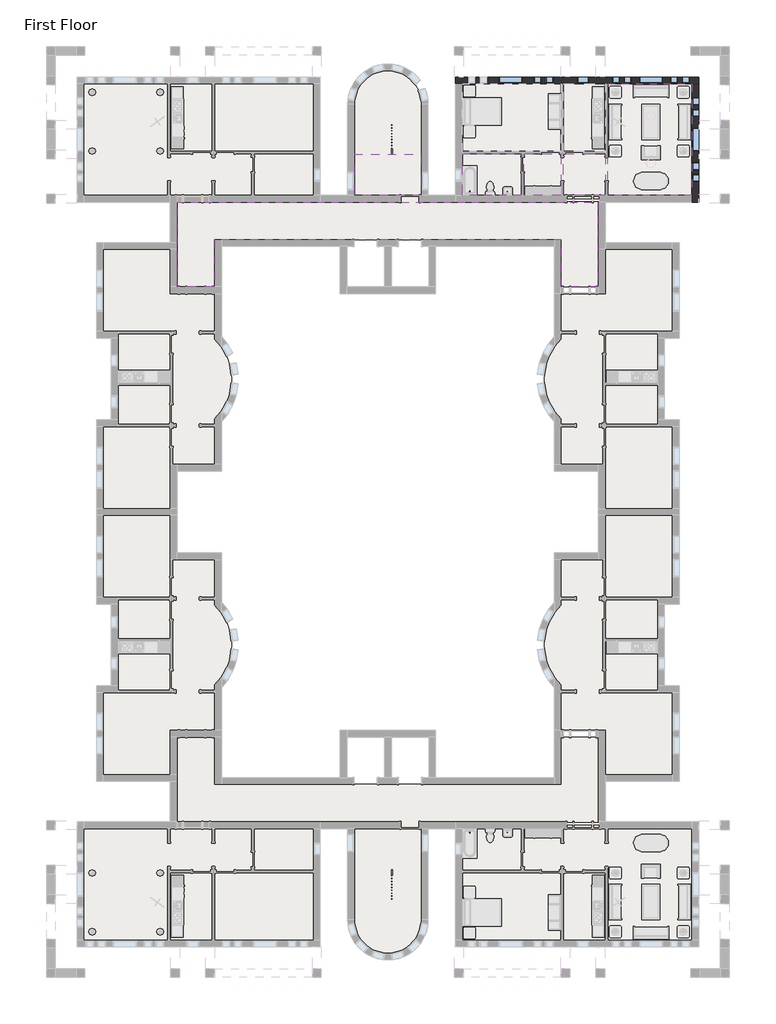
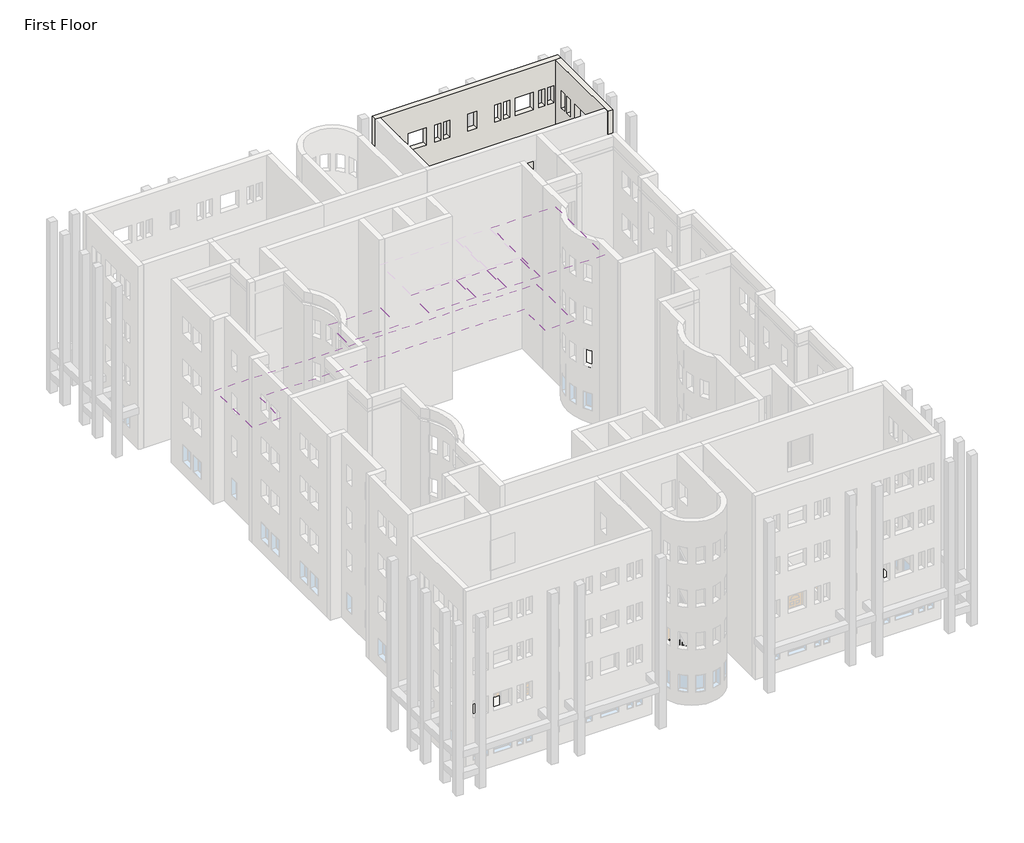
# One storey, part 18 of 23: 14 windows, 10 slabs, 6 coverings, 2 walls.
"""IFC4 building model written with IfcOpenShell, lengths in millimetres."""

from ifc_helpers import new_model, si_unit, point, frame, frame_2d, origin, place, context, project, spatial, polyline, circle_curve, trimmed, segment, composite_curve, outline, extrude, faceted_brep, transform, mapped, element, save
from components import window_da97879f, window_d61ef850, window_60baf983, window_6eb97611

model = new_model("IFC4")

# Units and contexts
model_context = context("Model", 3, world=origin())
ifc_project = project(units=[si_unit("LENGTHUNIT", "METRE", prefix="MILLI")], contexts=[model_context])

# Site, building, storey
site = spatial("IfcSite", under=ifc_project)
building = spatial("IfcBuilding", under=site)
storey = spatial("IfcBuildingStorey", under=building, Name="First Floor", Elevation=0.0)

# Coverings
placement = place(None, origin())
element("IfcCovering", 1, ObjectType="GWB on Mtl. Stud", at=placement, inside=storey, context=model_context, shape_type="SweptSolid", body=[
    extrude(outline(polyline([(-3709.9589563, 4526.4441867), (-3709.9589563, 10270.0191867), (622.3285437, 10270.0191867), (622.3285437, 4526.4441867), (-3709.9589563, 4526.4441867)])), frame((0.0, 0.0, 2590.8), z_axis=(0.0, 0.0, 1.0), x_axis=(1.0, 0.0, 0.0)), (0.0, 0.0, 1.0), 107.95),
])
element("IfcCovering", 2, ObjectType="GWB on Mtl. Stud", at=placement, inside=storey, context=model_context, shape_type="SweptSolid", body=[
    extrude(outline(polyline([(-3836.9589563, 4526.4441867), (-5995.9589563, 4526.4441867), (-5995.9589563, 6660.0441867), (-3836.9589563, 6660.0441867), (-3836.9589563, 4526.4441867)])), frame((0.0, 0.0, 2590.8), z_axis=(0.0, 0.0, 1.0), x_axis=(1.0, 0.0, 0.0)), (0.0, 0.0, 1.0), 107.95),
])
element("IfcCovering", 3, ObjectType="GWB on Mtl. Stud", at=placement, inside=storey, context=model_context, shape_type="SweptSolid", body=[
    extrude(outline(polyline([(-6122.9589563, 4526.4441867), (-8042.2464563, 4526.4441867), (-8042.2464563, 6660.0441867), (-6122.9589563, 6660.0441867), (-6122.9589563, 4526.4441867)])), frame((0.0, 0.0, 2590.8), z_axis=(0.0, 0.0, 1.0), x_axis=(1.0, 0.0, 0.0)), (0.0, 0.0, 1.0), 107.95),
])
element("IfcCovering", 4, ObjectType="GWB on Mtl. Stud", at=placement, inside=storey, context=model_context, shape_type="SweptSolid", body=[
    extrude(outline(polyline([(-8169.2464563, 6660.0441867), (-8169.2464563, 4526.4441867), (-11217.2464563, 4526.4441867), (-11217.2464563, 6660.0441867), (-8169.2464563, 6660.0441867)])), frame((0.0, 0.0, 2590.8), z_axis=(0.0, 0.0, 1.0), x_axis=(1.0, 0.0, 0.0)), (0.0, 0.0, 1.0), 107.95),
])
element("IfcCovering", 5, ObjectType="GWB on Mtl. Stud", at=placement, inside=storey, context=model_context, shape_type="SweptSolid", body=[
    extrude(outline(polyline([(-13333.3839563, 4526.4441867), (-16790.9589563, 4526.4441867), (-16790.9589563, 6636.2316867), (-13333.3839563, 6636.2316867), (-13333.3839563, 4526.4441867)])), frame((0.0, 0.0, 2438.4), z_axis=(0.0, 0.0, 1.0), x_axis=(1.0, 0.0, 0.0)), (0.0, 0.0, 1.0), 107.95),
])
element("IfcCovering", 6, ObjectType="GWB on Mtl. Stud", at=placement, inside=storey, context=model_context, shape_type="SweptSolid", body=[
    extrude(outline(polyline([(-6122.9589563, -197.9558133), (-6122.9589563, 2240.4441867), (-24001.3839563, 2240.4441867), (-24001.3839563, -197.9558133), (-25934.9589563, -197.9558133), (-25934.9589563, 4174.0191867), (-4189.3839563, 4174.0191867), (-4189.3839563, -197.9558133), (-6122.9589563, -197.9558133)])), frame((0.0, 0.0, 2438.4), z_axis=(0.0, 0.0, 1.0), x_axis=(1.0, 0.0, 0.0)), (0.0, 0.0, 1.0), 107.95),
])

# Slabs
element("IfcSlab", 7, ObjectType="LW Concrete on Metal Deck", at=placement, inside=storey, context=model_context, shape_type="SweptSolid", body=[
    extrude(outline(polyline([(787.4285437, 10435.1191867), (787.4285437, 4361.3441867), (-11382.3464563, 4361.3441867), (-11382.3464563, 10435.1191867), (787.4285437, 10435.1191867)])), frame((0.0, 0.0, -104.775), z_axis=(0.0, 0.0, 1.0), x_axis=(1.0, 0.0, 0.0)), (0.0, 0.0, 1.0), 104.775),
])
element("IfcSlab", 8, ObjectType="LW Concrete on Metal Deck", at=placement, inside=storey, context=model_context, shape_type="SweptSolid", body=[
    extrude(outline(composite_curve([segment(polyline([(-13320.6839563, 9227.0316867), (-13320.6839563, 4186.7191867), (-4189.3839563, 4186.7191867), (-4189.3839563, -197.9558133), (-6135.6589563, -197.9558133), (-6135.6589563, 2227.7441867), (-23988.6839563, 2227.7441867), (-23988.6839563, -197.9558133), (-25934.9589563, -197.9558133), (-25934.9589563, 4186.7191867), (-16803.6589563, 4186.7191867), (-16803.6589563, 9227.0316867)]), True, "CONTINUOUS"), segment(trimmed(circle_curve(frame_2d((-15062.1714563, 9227.0316867)), 1741.4875), [point((-16803.6589563, 9227.0316867))], [point((-13320.6839563, 9227.0316867))], False, "CARTESIAN"), True, "CONTINUOUS")], self_intersect=False)), frame((0.0, 0.0, -104.775), z_axis=(0.0, 0.0, 1.0), x_axis=(1.0, 0.0, 0.0)), (0.0, 0.0, 1.0), 104.775),
])
element("IfcSlab", 9, ObjectType="LW Concrete on Metal Deck", at=placement, inside=storey, context=model_context, shape_type="SweptSolid", body=[
    extrude(outline(composite_curve([segment(polyline([(-366.6839563, -7395.6808133), (-366.6839563, -11640.6558133), (-3849.6589563, -11640.6558133), (-3849.6589563, -9354.6558133), (-6135.6589563, -9354.6558133), (-6135.6589563, -6994.1453152)]), True, "CONTINUOUS"), segment(trimmed(circle_curve(frame_2d((-4122.4640713, -4946.1683133)), 2871.7875), [point((-6135.6589563, -6994.1453152))], [point((-6135.6589563, -2898.1913115))], False, "CARTESIAN"), True, "CONTINUOUS"), segment(polyline([(-6135.6589563, -2898.1913115), (-6135.6589563, -537.6808133), (-3849.6589563, -537.6808133), (-3849.6589563, 1748.3191867), (-366.6839563, 1748.3191867), (-366.6839563, -2496.6558133), (-1128.6839563, -2496.6558133), (-1128.6839563, -7395.6808133), (-366.6839563, -7395.6808133)]), True, "CONTINUOUS")], self_intersect=False)), frame((0.0, 0.0, -104.775), z_axis=(0.0, 0.0, 1.0), x_axis=(1.0, 0.0, 0.0)), (0.0, 0.0, 1.0), 104.775),
])
element("IfcSlab", 10, ObjectType="LW Concrete on Metal Deck", at=placement, inside=storey, context=model_context, shape_type="SweptSolid", body=[
    extrude(outline(polyline([(-30911.7714563, 10435.1191867), (-18741.9964563, 10435.1191867), (-18741.9964563, 4361.3441867), (-30911.7714563, 4361.3441867), (-30911.7714563, 10435.1191867)])), frame((0.0, 0.0, -104.775), z_axis=(0.0, 0.0, 1.0), x_axis=(1.0, 0.0, 0.0)), (0.0, 0.0, 1.0), 104.775),
])
element("IfcSlab", 11, ObjectType="LW Concrete on Metal Deck", at=placement, inside=storey, context=model_context, shape_type="SweptSolid", body=[
    extrude(outline(composite_curve([segment(polyline([(-29757.6589563, -7395.6808133), (-28995.6589563, -7395.6808133), (-28995.6589563, -2496.6558133), (-29757.6589563, -2496.6558133), (-29757.6589563, 1748.3191867), (-26274.6839563, 1748.3191867), (-26274.6839563, -537.6808133), (-23988.6839563, -537.6808133), (-23988.6839563, -2898.1913115)]), True, "CONTINUOUS"), segment(trimmed(circle_curve(frame_2d((-26001.8788413, -4946.1683133)), 2871.7875), [point((-23988.6839563, -2898.1913115))], [point((-23988.6839563, -6994.1453152))], False, "CARTESIAN"), True, "CONTINUOUS"), segment(polyline([(-23988.6839563, -6994.1453152), (-23988.6839563, -9354.6558133), (-26274.6839563, -9354.6558133), (-26274.6839563, -11640.6558133), (-29757.6589563, -11640.6558133), (-29757.6589563, -7395.6808133)]), True, "CONTINUOUS")], self_intersect=False)), frame((0.0, 0.0, -104.775), z_axis=(0.0, 0.0, 1.0), x_axis=(1.0, 0.0, 0.0)), (0.0, 0.0, 1.0), 104.775),
])
element("IfcSlab", 12, ObjectType="LW Concrete on Metal Deck", at=placement, inside=storey, context=model_context, shape_type="SweptSolid", body=[
    extrude(outline(polyline([(787.4285437, -34043.4558133), (-11382.3464563, -34043.4558133), (-11382.3464563, -27969.6808133), (787.4285437, -27969.6808133), (787.4285437, -34043.4558133)])), frame((0.0, 0.0, -104.775), z_axis=(0.0, 0.0, 1.0), x_axis=(1.0, 0.0, 0.0)), (0.0, 0.0, 1.0), 104.775),
])
element("IfcSlab", 13, ObjectType="LW Concrete on Metal Deck", at=placement, inside=storey, context=model_context, shape_type="SweptSolid", body=[
    extrude(outline(composite_curve([segment(trimmed(circle_curve(frame_2d((-15062.1714563, -32835.3683133)), 1741.4875), [point((-13320.6839563, -32835.3683133))], [point((-16803.6589563, -32835.3683133))], False, "CARTESIAN"), True, "CONTINUOUS"), segment(polyline([(-16803.6589563, -32835.3683133), (-16803.6589563, -27795.0558133), (-25934.9589563, -27795.0558133), (-25934.9589563, -23410.3808133), (-23988.6839563, -23410.3808133), (-23988.6839563, -25836.0808133), (-6135.6589563, -25836.0808133), (-6135.6589563, -23410.3808133), (-4189.3839563, -23410.3808133), (-4189.3839563, -27795.0558133), (-13320.6839563, -27795.0558133), (-13320.6839563, -32835.3683133)]), True, "CONTINUOUS")], self_intersect=False)), frame((0.0, 0.0, -104.775), z_axis=(0.0, 0.0, 1.0), x_axis=(1.0, 0.0, 0.0)), (0.0, 0.0, 1.0), 104.775),
])
element("IfcSlab", 14, ObjectType="LW Concrete on Metal Deck", at=placement, inside=storey, context=model_context, shape_type="SweptSolid", body=[
    extrude(outline(composite_curve([segment(polyline([(-366.6839563, -16212.6558133), (-1128.6839563, -16212.6558133), (-1128.6839563, -21111.6808133), (-366.6839563, -21111.6808133), (-366.6839563, -25356.6558133), (-3849.6589563, -25356.6558133), (-3849.6589563, -23070.6558133), (-6135.6589563, -23070.6558133), (-6135.6589563, -20710.1453152)]), True, "CONTINUOUS"), segment(trimmed(circle_curve(frame_2d((-4122.4640713, -18662.1683133)), 2871.7875), [point((-6135.6589563, -20710.1453152))], [point((-6135.6589563, -16614.1913115))], False, "CARTESIAN"), True, "CONTINUOUS"), segment(polyline([(-6135.6589563, -16614.1913115), (-6135.6589563, -14253.6808133), (-3849.6589563, -14253.6808133), (-3849.6589563, -11967.6808133), (-366.6839563, -11967.6808133), (-366.6839563, -16212.6558133)]), True, "CONTINUOUS")], self_intersect=False)), frame((0.0, 0.0, -104.775), z_axis=(0.0, 0.0, 1.0), x_axis=(1.0, 0.0, 0.0)), (0.0, 0.0, 1.0), 104.775),
])
element("IfcSlab", 15, ObjectType="LW Concrete on Metal Deck", at=placement, inside=storey, context=model_context, shape_type="SweptSolid", body=[
    extrude(outline(polyline([(-30911.7714563, -34043.4558133), (-30911.7714563, -27969.6808133), (-18741.9964563, -27969.6808133), (-18741.9964563, -34043.4558133), (-30911.7714563, -34043.4558133)])), frame((0.0, 0.0, -104.775), z_axis=(0.0, 0.0, 1.0), x_axis=(1.0, 0.0, 0.0)), (0.0, 0.0, 1.0), 104.775),
])
element("IfcSlab", 16, ObjectType="LW Concrete on Metal Deck", at=placement, inside=storey, context=model_context, shape_type="SweptSolid", body=[
    extrude(outline(composite_curve([segment(polyline([(-29757.6589563, -16212.6558133), (-29757.6589563, -11967.6808133), (-26274.6839563, -11967.6808133), (-26274.6839563, -14253.6808133), (-23988.6839563, -14253.6808133), (-23988.6839563, -16614.1913115)]), True, "CONTINUOUS"), segment(trimmed(circle_curve(frame_2d((-26001.8788413, -18662.1683133)), 2871.7875), [point((-23988.6839563, -16614.1913115))], [point((-23988.6839563, -20710.1453152))], False, "CARTESIAN"), True, "CONTINUOUS"), segment(polyline([(-23988.6839563, -20710.1453152), (-23988.6839563, -23070.6558133), (-26274.6839563, -23070.6558133), (-26274.6839563, -25356.6558133), (-29757.6589563, -25356.6558133), (-29757.6589563, -21111.6808133), (-28995.6589563, -21111.6808133), (-28995.6589563, -16212.6558133), (-29757.6589563, -16212.6558133)]), True, "CONTINUOUS")], self_intersect=False)), frame((0.0, 0.0, -104.775), z_axis=(0.0, 0.0, 1.0), x_axis=(1.0, 0.0, 0.0)), (0.0, 0.0, 1.0), 104.775),
])

# Walls
element("IfcWall", 17, ObjectType="Exterior - Brick on Mtl. Stud", at=placement, inside=storey, context=model_context, shape_type="Brep", body=[
    faceted_brep([(-11569.6714563, 10270.0191867, 0.0), (-11382.3464563, 10270.0191867, 0.0), (-11217.2464563, 10270.0191867, 0.0), (-6122.9589563, 10270.0191867, 0.0), (-5995.9589563, 10270.0191867, 0.0), (-3836.9589563, 10270.0191867, 0.0), (-3709.9589563, 10270.0191867, 0.0), (622.3285437, 10270.0191867, 0.0), (787.4285437, 10270.0191867, 0.0), (974.7535437, 10270.0191867, 0.0), (974.7535437, 10270.0191867, 13106.4), (622.3285437, 10270.0191867, 13106.4), (-11217.2464563, 10270.0191867, 13106.4), (-11569.6714563, 10270.0191867, 13106.4), (-5297.4589563, 10270.0191867, 2133.6), (-4687.8589563, 10270.0191867, 2133.6), (-4687.8589563, 10270.0191867, 914.4), (-5297.4589563, 10270.0191867, 914.4), (-9336.0589563, 10270.0191867, 2133.6), (-8116.8589563, 10270.0191867, 2133.6), (-8116.8589563, 10270.0191867, 914.4), (-9336.0589563, 10270.0191867, 914.4), (-2097.0589563, 10270.0191867, 2133.6), (-877.8589563, 10270.0191867, 2133.6), (-877.8589563, 10270.0191867, 914.4), (-2097.0589563, 10270.0191867, 914.4), (-10936.2589563, 10270.0191867, 2133.6), (-10529.8589563, 10270.0191867, 2133.6), (-10529.8589563, 10270.0191867, 914.4), (-10936.2589563, 10270.0191867, 914.4), (-10326.6589563, 10270.0191867, 2133.6), (-9920.2589563, 10270.0191867, 2133.6), (-9920.2589563, 10270.0191867, 914.4), (-10326.6589563, 10270.0191867, 914.4), (-6516.6589563, 10270.0191867, 2133.6), (-6516.6589563, 10270.0191867, 914.4), (-6923.0589563, 10270.0191867, 914.4), (-6923.0589563, 10270.0191867, 2133.6), (-7126.2589563, 10270.0191867, 2133.6), (-7126.2589563, 10270.0191867, 914.4), (-7532.6589563, 10270.0191867, 914.4), (-7532.6589563, 10270.0191867, 2133.6), (-3494.0589563, 10270.0191867, 2133.6), (-3087.6589563, 10270.0191867, 2133.6), (-3087.6589563, 10270.0191867, 914.4), (-3494.0589563, 10270.0191867, 914.4), (-2884.4589563, 10270.0191867, 2133.6), (-2478.0589563, 10270.0191867, 2133.6), (-2478.0589563, 10270.0191867, 914.4), (-2884.4589563, 10270.0191867, 914.4), (519.1410437, 10270.0191867, 2133.6), (519.1410437, 10270.0191867, 914.4), (112.7410437, 10270.0191867, 914.4), (112.7410437, 10270.0191867, 2133.6), (-90.4589563, 10270.0191867, 2133.6), (-90.4589563, 10270.0191867, 914.4), (-496.8589563, 10270.0191867, 914.4), (-496.8589563, 10270.0191867, 2133.6), (-5297.4589563, 10270.0191867, 11277.6), (-4687.8589563, 10270.0191867, 11277.6), (-4687.8589563, 10270.0191867, 10058.4), (-5297.4589563, 10270.0191867, 10058.4), (-9336.0589563, 10270.0191867, 11277.6), (-8116.8589563, 10270.0191867, 11277.6), (-8116.8589563, 10270.0191867, 10058.4), (-9336.0589563, 10270.0191867, 10058.4), (-2097.0589563, 10270.0191867, 11277.6), (-877.8589563, 10270.0191867, 11277.6), (-877.8589563, 10270.0191867, 10058.4), (-2097.0589563, 10270.0191867, 10058.4), (-10936.2589563, 10270.0191867, 11277.6), (-10529.8589563, 10270.0191867, 11277.6), (-10529.8589563, 10270.0191867, 10058.4), (-10936.2589563, 10270.0191867, 10058.4), (-10326.6589563, 10270.0191867, 11277.6), (-9920.2589563, 10270.0191867, 11277.6), (-9920.2589563, 10270.0191867, 10058.4), (-10326.6589563, 10270.0191867, 10058.4), (-6516.6589563, 10270.0191867, 11277.6), (-6516.6589563, 10270.0191867, 10058.4), (-6923.0589563, 10270.0191867, 10058.4), (-6923.0589563, 10270.0191867, 11277.6), (-7126.2589563, 10270.0191867, 11277.6), (-7126.2589563, 10270.0191867, 10058.4), (-7532.6589563, 10270.0191867, 10058.4), (-7532.6589563, 10270.0191867, 11277.6), (-3494.0589563, 10270.0191867, 11277.6), (-3087.6589563, 10270.0191867, 11277.6), (-3087.6589563, 10270.0191867, 10058.4), (-3494.0589563, 10270.0191867, 10058.4), (-2884.4589563, 10270.0191867, 11277.6), (-2478.0589563, 10270.0191867, 11277.6), (-2478.0589563, 10270.0191867, 10058.4), (-2884.4589563, 10270.0191867, 10058.4), (519.1410437, 10270.0191867, 11277.6), (519.1410437, 10270.0191867, 10058.4), (112.7410437, 10270.0191867, 10058.4), (112.7410437, 10270.0191867, 11277.6), (-90.4589563, 10270.0191867, 11277.6), (-90.4589563, 10270.0191867, 10058.4), (-496.8589563, 10270.0191867, 10058.4), (-496.8589563, 10270.0191867, 11277.6), (-5297.4589563, 10270.0191867, 5181.6), (-4687.8589563, 10270.0191867, 5181.6), (-4687.8589563, 10270.0191867, 3962.4), (-5297.4589563, 10270.0191867, 3962.4), (-9336.0589563, 10270.0191867, 5181.6), (-8116.8589563, 10270.0191867, 5181.6), (-8116.8589563, 10270.0191867, 3962.4), (-9336.0589563, 10270.0191867, 3962.4), (-2097.0589563, 10270.0191867, 5181.6), (-877.8589563, 10270.0191867, 5181.6), (-877.8589563, 10270.0191867, 3962.4), (-2097.0589563, 10270.0191867, 3962.4), (-10936.2589563, 10270.0191867, 5181.6), (-10529.8589563, 10270.0191867, 5181.6), (-10529.8589563, 10270.0191867, 3962.4), (-10936.2589563, 10270.0191867, 3962.4), (-10326.6589563, 10270.0191867, 5181.6), (-9920.2589563, 10270.0191867, 5181.6), (-9920.2589563, 10270.0191867, 3962.4), (-10326.6589563, 10270.0191867, 3962.4), (-6516.6589563, 10270.0191867, 5181.6), (-6516.6589563, 10270.0191867, 3962.4), (-6923.0589563, 10270.0191867, 3962.4), (-6923.0589563, 10270.0191867, 5181.6), (-7126.2589563, 10270.0191867, 5181.6), (-7126.2589563, 10270.0191867, 3962.4), (-7532.6589563, 10270.0191867, 3962.4), (-7532.6589563, 10270.0191867, 5181.6), (-3494.0589563, 10270.0191867, 5181.6), (-3087.6589563, 10270.0191867, 5181.6), (-3087.6589563, 10270.0191867, 3962.4), (-3494.0589563, 10270.0191867, 3962.4), (-2884.4589563, 10270.0191867, 5181.6), (-2478.0589563, 10270.0191867, 5181.6), (-2478.0589563, 10270.0191867, 3962.4), (-2884.4589563, 10270.0191867, 3962.4), (519.1410437, 10270.0191867, 5181.6), (519.1410437, 10270.0191867, 3962.4), (112.7410437, 10270.0191867, 3962.4), (112.7410437, 10270.0191867, 5181.6), (-90.4589563, 10270.0191867, 5181.6), (-90.4589563, 10270.0191867, 3962.4), (-496.8589563, 10270.0191867, 3962.4), (-496.8589563, 10270.0191867, 5181.6), (-5297.4589563, 10270.0191867, 8229.6), (-4687.8589563, 10270.0191867, 8229.6), (-4687.8589563, 10270.0191867, 7010.4), (-5297.4589563, 10270.0191867, 7010.4), (-9336.0589563, 10270.0191867, 8229.6), (-8116.8589563, 10270.0191867, 8229.6), (-8116.8589563, 10270.0191867, 7010.4), (-9336.0589563, 10270.0191867, 7010.4), (-2097.0589563, 10270.0191867, 8229.6), (-877.8589563, 10270.0191867, 8229.6), (-877.8589563, 10270.0191867, 7010.4), (-2097.0589563, 10270.0191867, 7010.4), (-10936.2589563, 10270.0191867, 8229.6), (-10529.8589563, 10270.0191867, 8229.6), (-10529.8589563, 10270.0191867, 7010.4), (-10936.2589563, 10270.0191867, 7010.4), (-10326.6589563, 10270.0191867, 8229.6), (-9920.2589563, 10270.0191867, 8229.6), (-9920.2589563, 10270.0191867, 7010.4), (-10326.6589563, 10270.0191867, 7010.4), (-6516.6589563, 10270.0191867, 8229.6), (-6516.6589563, 10270.0191867, 7010.4), (-6923.0589563, 10270.0191867, 7010.4), (-6923.0589563, 10270.0191867, 8229.6), (-7126.2589563, 10270.0191867, 8229.6), (-7126.2589563, 10270.0191867, 7010.4), (-7532.6589563, 10270.0191867, 7010.4), (-7532.6589563, 10270.0191867, 8229.6), (-3494.0589563, 10270.0191867, 8229.6), (-3087.6589563, 10270.0191867, 8229.6), (-3087.6589563, 10270.0191867, 7010.4), (-3494.0589563, 10270.0191867, 7010.4), (-2884.4589563, 10270.0191867, 8229.6), (-2478.0589563, 10270.0191867, 8229.6), (-2478.0589563, 10270.0191867, 7010.4), (-2884.4589563, 10270.0191867, 7010.4), (519.1410437, 10270.0191867, 8229.6), (519.1410437, 10270.0191867, 7010.4), (112.7410437, 10270.0191867, 7010.4), (112.7410437, 10270.0191867, 8229.6), (-90.4589563, 10270.0191867, 8229.6), (-90.4589563, 10270.0191867, 7010.4), (-496.8589563, 10270.0191867, 7010.4), (-496.8589563, 10270.0191867, 8229.6), (-11569.6714563, 10622.4441867, 0.0), (-11569.6714563, 10622.4441867, 13106.4), (974.7535437, 10622.4441867, 13106.4), (974.7535437, 10622.4441867, 0.0), (787.4285437, 10622.4441867, 0.0), (-11382.3464563, 10622.4441867, 0.0), (-5297.4589563, 10622.4441867, 2133.6), (-5297.4589563, 10622.4441867, 914.4), (-4687.8589563, 10622.4441867, 914.4), (-4687.8589563, 10622.4441867, 2133.6), (-9336.0589563, 10622.4441867, 2133.6), (-9336.0589563, 10622.4441867, 914.4), (-8116.8589563, 10622.4441867, 914.4), (-8116.8589563, 10622.4441867, 2133.6), (-2097.0589563, 10622.4441867, 2133.6), (-2097.0589563, 10622.4441867, 914.4), (-877.8589563, 10622.4441867, 914.4), (-877.8589563, 10622.4441867, 2133.6), (-10936.2589563, 10622.4441867, 2133.6), (-10936.2589563, 10622.4441867, 914.4), (-10529.8589563, 10622.4441867, 914.4), (-10529.8589563, 10622.4441867, 2133.6), (-10326.6589563, 10622.4441867, 2133.6), (-10326.6589563, 10622.4441867, 914.4), (-9920.2589563, 10622.4441867, 914.4), (-9920.2589563, 10622.4441867, 2133.6), (-6516.6589563, 10622.4441867, 2133.6), (-6923.0589563, 10622.4441867, 2133.6), (-6923.0589563, 10622.4441867, 914.4), (-6516.6589563, 10622.4441867, 914.4), (-7126.2589563, 10622.4441867, 2133.6), (-7532.6589563, 10622.4441867, 2133.6), (-7532.6589563, 10622.4441867, 914.4), (-7126.2589563, 10622.4441867, 914.4), (-3494.0589563, 10622.4441867, 2133.6), (-3494.0589563, 10622.4441867, 914.4), (-3087.6589563, 10622.4441867, 914.4), (-3087.6589563, 10622.4441867, 2133.6), (-2884.4589563, 10622.4441867, 2133.6), (-2884.4589563, 10622.4441867, 914.4), (-2478.0589563, 10622.4441867, 914.4), (-2478.0589563, 10622.4441867, 2133.6), (519.1410437, 10622.4441867, 2133.6), (112.7410437, 10622.4441867, 2133.6), (112.7410437, 10622.4441867, 914.4), (519.1410437, 10622.4441867, 914.4), (-90.4589563, 10622.4441867, 2133.6), (-496.8589563, 10622.4441867, 2133.6), (-496.8589563, 10622.4441867, 914.4), (-90.4589563, 10622.4441867, 914.4), (-5297.4589563, 10622.4441867, 11277.6), (-5297.4589563, 10622.4441867, 10058.4), (-4687.8589563, 10622.4441867, 10058.4), (-4687.8589563, 10622.4441867, 11277.6), (-9336.0589563, 10622.4441867, 11277.6), (-9336.0589563, 10622.4441867, 10058.4), (-8116.8589563, 10622.4441867, 10058.4), (-8116.8589563, 10622.4441867, 11277.6), (-2097.0589563, 10622.4441867, 11277.6), (-2097.0589563, 10622.4441867, 10058.4), (-877.8589563, 10622.4441867, 10058.4), (-877.8589563, 10622.4441867, 11277.6), (-10936.2589563, 10622.4441867, 11277.6), (-10936.2589563, 10622.4441867, 10058.4), (-10529.8589563, 10622.4441867, 10058.4), (-10529.8589563, 10622.4441867, 11277.6), (-10326.6589563, 10622.4441867, 11277.6), (-10326.6589563, 10622.4441867, 10058.4), (-9920.2589563, 10622.4441867, 10058.4), (-9920.2589563, 10622.4441867, 11277.6), (-6516.6589563, 10622.4441867, 11277.6), (-6923.0589563, 10622.4441867, 11277.6), (-6923.0589563, 10622.4441867, 10058.4), (-6516.6589563, 10622.4441867, 10058.4), (-7126.2589563, 10622.4441867, 11277.6), (-7532.6589563, 10622.4441867, 11277.6), (-7532.6589563, 10622.4441867, 10058.4), (-7126.2589563, 10622.4441867, 10058.4), (-3494.0589563, 10622.4441867, 11277.6), (-3494.0589563, 10622.4441867, 10058.4), (-3087.6589563, 10622.4441867, 10058.4), (-3087.6589563, 10622.4441867, 11277.6), (-2884.4589563, 10622.4441867, 11277.6), (-2884.4589563, 10622.4441867, 10058.4), (-2478.0589563, 10622.4441867, 10058.4), (-2478.0589563, 10622.4441867, 11277.6), (519.1410437, 10622.4441867, 11277.6), (112.7410437, 10622.4441867, 11277.6), (112.7410437, 10622.4441867, 10058.4), (519.1410437, 10622.4441867, 10058.4), (-90.4589563, 10622.4441867, 11277.6), (-496.8589563, 10622.4441867, 11277.6), (-496.8589563, 10622.4441867, 10058.4), (-90.4589563, 10622.4441867, 10058.4), (-5297.4589563, 10622.4441867, 5181.6), (-5297.4589563, 10622.4441867, 3962.4), (-4687.8589563, 10622.4441867, 3962.4), (-4687.8589563, 10622.4441867, 5181.6), (-9336.0589563, 10622.4441867, 5181.6), (-9336.0589563, 10622.4441867, 3962.4), (-8116.8589563, 10622.4441867, 3962.4), (-8116.8589563, 10622.4441867, 5181.6), (-2097.0589563, 10622.4441867, 5181.6), (-2097.0589563, 10622.4441867, 3962.4), (-877.8589563, 10622.4441867, 3962.4), (-877.8589563, 10622.4441867, 5181.6), (-10936.2589563, 10622.4441867, 5181.6), (-10936.2589563, 10622.4441867, 3962.4), (-10529.8589563, 10622.4441867, 3962.4), (-10529.8589563, 10622.4441867, 5181.6), (-10326.6589563, 10622.4441867, 5181.6), (-10326.6589563, 10622.4441867, 3962.4), (-9920.2589563, 10622.4441867, 3962.4), (-9920.2589563, 10622.4441867, 5181.6), (-6516.6589563, 10622.4441867, 5181.6), (-6923.0589563, 10622.4441867, 5181.6), (-6923.0589563, 10622.4441867, 3962.4), (-6516.6589563, 10622.4441867, 3962.4), (-7126.2589563, 10622.4441867, 5181.6), (-7532.6589563, 10622.4441867, 5181.6), (-7532.6589563, 10622.4441867, 3962.4), (-7126.2589563, 10622.4441867, 3962.4), (-3494.0589563, 10622.4441867, 5181.6), (-3494.0589563, 10622.4441867, 3962.4), (-3087.6589563, 10622.4441867, 3962.4), (-3087.6589563, 10622.4441867, 5181.6), (-2884.4589563, 10622.4441867, 5181.6), (-2884.4589563, 10622.4441867, 3962.4), (-2478.0589563, 10622.4441867, 3962.4), (-2478.0589563, 10622.4441867, 5181.6), (519.1410437, 10622.4441867, 5181.6), (112.7410437, 10622.4441867, 5181.6), (112.7410437, 10622.4441867, 3962.4), (519.1410437, 10622.4441867, 3962.4), (-90.4589563, 10622.4441867, 5181.6), (-496.8589563, 10622.4441867, 5181.6), (-496.8589563, 10622.4441867, 3962.4), (-90.4589563, 10622.4441867, 3962.4), (-5297.4589563, 10622.4441867, 8229.6), (-5297.4589563, 10622.4441867, 7010.4), (-4687.8589563, 10622.4441867, 7010.4), (-4687.8589563, 10622.4441867, 8229.6), (-9336.0589563, 10622.4441867, 8229.6), (-9336.0589563, 10622.4441867, 7010.4), (-8116.8589563, 10622.4441867, 7010.4), (-8116.8589563, 10622.4441867, 8229.6), (-2097.0589563, 10622.4441867, 8229.6), (-2097.0589563, 10622.4441867, 7010.4), (-877.8589563, 10622.4441867, 7010.4), (-877.8589563, 10622.4441867, 8229.6), (-10936.2589563, 10622.4441867, 8229.6), (-10936.2589563, 10622.4441867, 7010.4), (-10529.8589563, 10622.4441867, 7010.4), (-10529.8589563, 10622.4441867, 8229.6), (-10326.6589563, 10622.4441867, 8229.6), (-10326.6589563, 10622.4441867, 7010.4), (-9920.2589563, 10622.4441867, 7010.4), (-9920.2589563, 10622.4441867, 8229.6), (-6516.6589563, 10622.4441867, 8229.6), (-6923.0589563, 10622.4441867, 8229.6), (-6923.0589563, 10622.4441867, 7010.4), (-6516.6589563, 10622.4441867, 7010.4), (-7126.2589563, 10622.4441867, 8229.6), (-7532.6589563, 10622.4441867, 8229.6), (-7532.6589563, 10622.4441867, 7010.4), (-7126.2589563, 10622.4441867, 7010.4), (-3494.0589563, 10622.4441867, 8229.6), (-3494.0589563, 10622.4441867, 7010.4), (-3087.6589563, 10622.4441867, 7010.4), (-3087.6589563, 10622.4441867, 8229.6), (-2884.4589563, 10622.4441867, 8229.6), (-2884.4589563, 10622.4441867, 7010.4), (-2478.0589563, 10622.4441867, 7010.4), (-2478.0589563, 10622.4441867, 8229.6), (519.1410437, 10622.4441867, 8229.6), (112.7410437, 10622.4441867, 8229.6), (112.7410437, 10622.4441867, 7010.4), (519.1410437, 10622.4441867, 7010.4), (-90.4589563, 10622.4441867, 8229.6), (-496.8589563, 10622.4441867, 8229.6), (-496.8589563, 10622.4441867, 7010.4), (-90.4589563, 10622.4441867, 7010.4), (974.7535437, 10435.1191867, 0.0), (-11569.6714563, 10435.1191867, 0.0), (-11382.3464563, 10435.1191867, 0.0), (787.4285437, 10435.1191867, 0.0)], [[[0, 1, 2, 3, 4, 5, 6, 7, 8, 9, 10, 11, 12, 13], [14, 15, 16, 17], [18, 19, 20, 21], [22, 23, 24, 25], [26, 27, 28, 29], [30, 31, 32, 33], [34, 35, 36, 37], [38, 39, 40, 41], [42, 43, 44, 45], [46, 47, 48, 49], [50, 51, 52, 53], [54, 55, 56, 57], [58, 59, 60, 61], [62, 63, 64, 65], [66, 67, 68, 69], [70, 71, 72, 73], [74, 75, 76, 77], [78, 79, 80, 81], [82, 83, 84, 85], [86, 87, 88, 89], [90, 91, 92, 93], [94, 95, 96, 97], [98, 99, 100, 101], [102, 103, 104, 105], [106, 107, 108, 109], [110, 111, 112, 113], [114, 115, 116, 117], [118, 119, 120, 121], [122, 123, 124, 125], [126, 127, 128, 129], [130, 131, 132, 133], [134, 135, 136, 137], [138, 139, 140, 141], [142, 143, 144, 145], [146, 147, 148, 149], [150, 151, 152, 153], [154, 155, 156, 157], [158, 159, 160, 161], [162, 163, 164, 165], [166, 167, 168, 169], [170, 171, 172, 173], [174, 175, 176, 177], [178, 179, 180, 181], [182, 183, 184, 185], [186, 187, 188, 189]], [[190, 191, 192, 193, 194, 195], [196, 197, 198, 199], [200, 201, 202, 203], [204, 205, 206, 207], [208, 209, 210, 211], [212, 213, 214, 215], [216, 217, 218, 219], [220, 221, 222, 223], [224, 225, 226, 227], [228, 229, 230, 231], [232, 233, 234, 235], [236, 237, 238, 239], [240, 241, 242, 243], [244, 245, 246, 247], [248, 249, 250, 251], [252, 253, 254, 255], [256, 257, 258, 259], [260, 261, 262, 263], [264, 265, 266, 267], [268, 269, 270, 271], [272, 273, 274, 275], [276, 277, 278, 279], [280, 281, 282, 283], [284, 285, 286, 287], [288, 289, 290, 291], [292, 293, 294, 295], [296, 297, 298, 299], [300, 301, 302, 303], [304, 305, 306, 307], [308, 309, 310, 311], [312, 313, 314, 315], [316, 317, 318, 319], [320, 321, 322, 323], [324, 325, 326, 327], [328, 329, 330, 331], [332, 333, 334, 335], [336, 337, 338, 339], [340, 341, 342, 343], [344, 345, 346, 347], [348, 349, 350, 351], [352, 353, 354, 355], [356, 357, 358, 359], [360, 361, 362, 363], [364, 365, 366, 367], [368, 369, 370, 371]], [[13, 12, 11, 10, 192, 191]], [[10, 9, 372, 193, 192]], [[0, 13, 191, 190, 373]], [[1, 0, 373, 374]], [[373, 190, 195, 374]], [[9, 8, 375, 372]], [[195, 194, 375, 374]], [[194, 193, 372, 375]], [[8, 7, 6, 5, 4, 3, 2, 1, 374, 375]], [[197, 196, 14, 17]], [[198, 197, 17, 16]], [[199, 198, 16, 15]], [[196, 199, 15, 14]], [[201, 200, 18, 21]], [[202, 201, 21, 20]], [[203, 202, 20, 19]], [[200, 203, 19, 18]], [[205, 204, 22, 25]], [[206, 205, 25, 24]], [[207, 206, 24, 23]], [[204, 207, 23, 22]], [[209, 208, 26, 29]], [[210, 209, 29, 28]], [[211, 210, 28, 27]], [[208, 211, 27, 26]], [[213, 212, 30, 33]], [[214, 213, 33, 32]], [[215, 214, 32, 31]], [[212, 215, 31, 30]], [[35, 34, 216, 219]], [[36, 35, 219, 218]], [[37, 36, 218, 217]], [[34, 37, 217, 216]], [[39, 38, 220, 223]], [[40, 39, 223, 222]], [[41, 40, 222, 221]], [[38, 41, 221, 220]], [[225, 224, 42, 45]], [[226, 225, 45, 44]], [[227, 226, 44, 43]], [[224, 227, 43, 42]], [[229, 228, 46, 49]], [[230, 229, 49, 48]], [[231, 230, 48, 47]], [[228, 231, 47, 46]], [[51, 50, 232, 235]], [[52, 51, 235, 234]], [[53, 52, 234, 233]], [[50, 53, 233, 232]], [[55, 54, 236, 239]], [[56, 55, 239, 238]], [[57, 56, 238, 237]], [[54, 57, 237, 236]], [[241, 240, 58, 61]], [[242, 241, 61, 60]], [[243, 242, 60, 59]], [[240, 243, 59, 58]], [[245, 244, 62, 65]], [[246, 245, 65, 64]], [[247, 246, 64, 63]], [[244, 247, 63, 62]], [[249, 248, 66, 69]], [[250, 249, 69, 68]], [[251, 250, 68, 67]], [[248, 251, 67, 66]], [[253, 252, 70, 73]], [[254, 253, 73, 72]], [[255, 254, 72, 71]], [[252, 255, 71, 70]], [[257, 256, 74, 77]], [[258, 257, 77, 76]], [[259, 258, 76, 75]], [[256, 259, 75, 74]], [[79, 78, 260, 263]], [[80, 79, 263, 262]], [[81, 80, 262, 261]], [[78, 81, 261, 260]], [[83, 82, 264, 267]], [[84, 83, 267, 266]], [[85, 84, 266, 265]], [[82, 85, 265, 264]], [[269, 268, 86, 89]], [[270, 269, 89, 88]], [[271, 270, 88, 87]], [[268, 271, 87, 86]], [[273, 272, 90, 93]], [[274, 273, 93, 92]], [[275, 274, 92, 91]], [[272, 275, 91, 90]], [[95, 94, 276, 279]], [[96, 95, 279, 278]], [[97, 96, 278, 277]], [[94, 97, 277, 276]], [[99, 98, 280, 283]], [[100, 99, 283, 282]], [[101, 100, 282, 281]], [[98, 101, 281, 280]], [[285, 284, 102, 105]], [[286, 285, 105, 104]], [[287, 286, 104, 103]], [[284, 287, 103, 102]], [[289, 288, 106, 109]], [[290, 289, 109, 108]], [[291, 290, 108, 107]], [[288, 291, 107, 106]], [[293, 292, 110, 113]], [[294, 293, 113, 112]], [[295, 294, 112, 111]], [[292, 295, 111, 110]], [[297, 296, 114, 117]], [[298, 297, 117, 116]], [[299, 298, 116, 115]], [[296, 299, 115, 114]], [[301, 300, 118, 121]], [[302, 301, 121, 120]], [[303, 302, 120, 119]], [[300, 303, 119, 118]], [[123, 122, 304, 307]], [[124, 123, 307, 306]], [[125, 124, 306, 305]], [[122, 125, 305, 304]], [[127, 126, 308, 311]], [[128, 127, 311, 310]], [[129, 128, 310, 309]], [[126, 129, 309, 308]], [[313, 312, 130, 133]], [[314, 313, 133, 132]], [[315, 314, 132, 131]], [[312, 315, 131, 130]], [[317, 316, 134, 137]], [[318, 317, 137, 136]], [[319, 318, 136, 135]], [[316, 319, 135, 134]], [[139, 138, 320, 323]], [[140, 139, 323, 322]], [[141, 140, 322, 321]], [[138, 141, 321, 320]], [[143, 142, 324, 327]], [[144, 143, 327, 326]], [[145, 144, 326, 325]], [[142, 145, 325, 324]], [[329, 328, 146, 149]], [[330, 329, 149, 148]], [[331, 330, 148, 147]], [[328, 331, 147, 146]], [[333, 332, 150, 153]], [[334, 333, 153, 152]], [[335, 334, 152, 151]], [[332, 335, 151, 150]], [[337, 336, 154, 157]], [[338, 337, 157, 156]], [[339, 338, 156, 155]], [[336, 339, 155, 154]], [[341, 340, 158, 161]], [[342, 341, 161, 160]], [[343, 342, 160, 159]], [[340, 343, 159, 158]], [[345, 344, 162, 165]], [[346, 345, 165, 164]], [[347, 346, 164, 163]], [[344, 347, 163, 162]], [[167, 166, 348, 351]], [[168, 167, 351, 350]], [[169, 168, 350, 349]], [[166, 169, 349, 348]], [[171, 170, 352, 355]], [[172, 171, 355, 354]], [[173, 172, 354, 353]], [[170, 173, 353, 352]], [[357, 356, 174, 177]], [[358, 357, 177, 176]], [[359, 358, 176, 175]], [[356, 359, 175, 174]], [[361, 360, 178, 181]], [[362, 361, 181, 180]], [[363, 362, 180, 179]], [[360, 363, 179, 178]], [[183, 182, 364, 367]], [[184, 183, 367, 366]], [[185, 184, 366, 365]], [[182, 185, 365, 364]], [[187, 186, 368, 371]], [[188, 187, 371, 370]], [[189, 188, 370, 369]], [[186, 189, 369, 368]]]),
])
element("IfcWall", 18, ObjectType="Exterior - Brick on Mtl. Stud", at=placement, inside=storey, context=model_context, shape_type="Brep", body=[
    faceted_brep([(622.3285437, 10270.0191867, 0.0), (622.3285437, 4526.4441867, 0.0), (622.3285437, 4361.3441867, 0.0), (622.3285437, 4174.0191867, 0.0), (622.3285437, 4174.0191867, 13106.4), (622.3285437, 4526.4441867, 13106.4), (622.3285437, 10270.0191867, 13106.4), (622.3285437, 8007.8316867, 2133.6), (622.3285437, 6788.6316867, 2133.6), (622.3285437, 6788.6316867, 914.4), (622.3285437, 8007.8316867, 914.4), (622.3285437, 9582.6316867, 2133.6), (622.3285437, 9176.2316867, 2133.6), (622.3285437, 9176.2316867, 914.4), (622.3285437, 9582.6316867, 914.4), (622.3285437, 8973.0316867, 2133.6), (622.3285437, 8566.6316867, 2133.6), (622.3285437, 8566.6316867, 914.4), (622.3285437, 8973.0316867, 914.4), (622.3285437, 5213.8316867, 2133.6), (622.3285437, 5213.8316867, 914.4), (622.3285437, 5620.2316867, 914.4), (622.3285437, 5620.2316867, 2133.6), (622.3285437, 5823.4316867, 2133.6), (622.3285437, 5823.4316867, 914.4), (622.3285437, 6229.8316867, 914.4), (622.3285437, 6229.8316867, 2133.6), (622.3285437, 8007.8316867, 11277.6), (622.3285437, 6788.6316867, 11277.6), (622.3285437, 6788.6316867, 10058.4), (622.3285437, 8007.8316867, 10058.4), (622.3285437, 9582.6316867, 11277.6), (622.3285437, 9176.2316867, 11277.6), (622.3285437, 9176.2316867, 10058.4), (622.3285437, 9582.6316867, 10058.4), (622.3285437, 8973.0316867, 11277.6), (622.3285437, 8566.6316867, 11277.6), (622.3285437, 8566.6316867, 10058.4), (622.3285437, 8973.0316867, 10058.4), (622.3285437, 5213.8316867, 11277.6), (622.3285437, 5213.8316867, 10058.4), (622.3285437, 5620.2316867, 10058.4), (622.3285437, 5620.2316867, 11277.6), (622.3285437, 5823.4316867, 11277.6), (622.3285437, 5823.4316867, 10058.4), (622.3285437, 6229.8316867, 10058.4), (622.3285437, 6229.8316867, 11277.6), (622.3285437, 8007.8316867, 5181.6), (622.3285437, 6788.6316867, 5181.6), (622.3285437, 6788.6316867, 3962.4), (622.3285437, 8007.8316867, 3962.4), (622.3285437, 9582.6316867, 5181.6), (622.3285437, 9176.2316867, 5181.6), (622.3285437, 9176.2316867, 3962.4), (622.3285437, 9582.6316867, 3962.4), (622.3285437, 8973.0316867, 5181.6), (622.3285437, 8566.6316867, 5181.6), (622.3285437, 8566.6316867, 3962.4), (622.3285437, 8973.0316867, 3962.4), (622.3285437, 5213.8316867, 5181.6), (622.3285437, 5213.8316867, 3962.4), (622.3285437, 5620.2316867, 3962.4), (622.3285437, 5620.2316867, 5181.6), (622.3285437, 5823.4316867, 5181.6), (622.3285437, 5823.4316867, 3962.4), (622.3285437, 6229.8316867, 3962.4), (622.3285437, 6229.8316867, 5181.6), (622.3285437, 8007.8316867, 8229.6), (622.3285437, 6788.6316867, 8229.6), (622.3285437, 6788.6316867, 7010.4), (622.3285437, 8007.8316867, 7010.4), (622.3285437, 9582.6316867, 8229.6), (622.3285437, 9176.2316867, 8229.6), (622.3285437, 9176.2316867, 7010.4), (622.3285437, 9582.6316867, 7010.4), (622.3285437, 8973.0316867, 8229.6), (622.3285437, 8566.6316867, 8229.6), (622.3285437, 8566.6316867, 7010.4), (622.3285437, 8973.0316867, 7010.4), (622.3285437, 5213.8316867, 8229.6), (622.3285437, 5213.8316867, 7010.4), (622.3285437, 5620.2316867, 7010.4), (622.3285437, 5620.2316867, 8229.6), (622.3285437, 5823.4316867, 8229.6), (622.3285437, 5823.4316867, 7010.4), (622.3285437, 6229.8316867, 7010.4), (622.3285437, 6229.8316867, 8229.6), (974.7535437, 10270.0191867, 0.0), (974.7535437, 10270.0191867, 13106.4), (974.7535437, 4174.0191867, 13106.4), (974.7535437, 4174.0191867, 0.0), (974.7535437, 4361.3441867, 0.0), (974.7535437, 8007.8316867, 2133.6), (974.7535437, 8007.8316867, 914.4), (974.7535437, 6788.6316867, 914.4), (974.7535437, 6788.6316867, 2133.6), (974.7535437, 9582.6316867, 2133.6), (974.7535437, 9582.6316867, 914.4), (974.7535437, 9176.2316867, 914.4), (974.7535437, 9176.2316867, 2133.6), (974.7535437, 8973.0316867, 2133.6), (974.7535437, 8973.0316867, 914.4), (974.7535437, 8566.6316867, 914.4), (974.7535437, 8566.6316867, 2133.6), (974.7535437, 5213.8316867, 2133.6), (974.7535437, 5620.2316867, 2133.6), (974.7535437, 5620.2316867, 914.4), (974.7535437, 5213.8316867, 914.4), (974.7535437, 5823.4316867, 2133.6), (974.7535437, 6229.8316867, 2133.6), (974.7535437, 6229.8316867, 914.4), (974.7535437, 5823.4316867, 914.4), (974.7535437, 8007.8316867, 11277.6), (974.7535437, 8007.8316867, 10058.4), (974.7535437, 6788.6316867, 10058.4), (974.7535437, 6788.6316867, 11277.6), (974.7535437, 9582.6316867, 11277.6), (974.7535437, 9582.6316867, 10058.4), (974.7535437, 9176.2316867, 10058.4), (974.7535437, 9176.2316867, 11277.6), (974.7535437, 8973.0316867, 11277.6), (974.7535437, 8973.0316867, 10058.4), (974.7535437, 8566.6316867, 10058.4), (974.7535437, 8566.6316867, 11277.6), (974.7535437, 5213.8316867, 11277.6), (974.7535437, 5620.2316867, 11277.6), (974.7535437, 5620.2316867, 10058.4), (974.7535437, 5213.8316867, 10058.4), (974.7535437, 5823.4316867, 11277.6), (974.7535437, 6229.8316867, 11277.6), (974.7535437, 6229.8316867, 10058.4), (974.7535437, 5823.4316867, 10058.4), (974.7535437, 8007.8316867, 5181.6), (974.7535437, 8007.8316867, 3962.4), (974.7535437, 6788.6316867, 3962.4), (974.7535437, 6788.6316867, 5181.6), (974.7535437, 9582.6316867, 5181.6), (974.7535437, 9582.6316867, 3962.4), (974.7535437, 9176.2316867, 3962.4), (974.7535437, 9176.2316867, 5181.6), (974.7535437, 8973.0316867, 5181.6), (974.7535437, 8973.0316867, 3962.4), (974.7535437, 8566.6316867, 3962.4), (974.7535437, 8566.6316867, 5181.6), (974.7535437, 5213.8316867, 5181.6), (974.7535437, 5620.2316867, 5181.6), (974.7535437, 5620.2316867, 3962.4), (974.7535437, 5213.8316867, 3962.4), (974.7535437, 5823.4316867, 5181.6), (974.7535437, 6229.8316867, 5181.6), (974.7535437, 6229.8316867, 3962.4), (974.7535437, 5823.4316867, 3962.4), (974.7535437, 8007.8316867, 8229.6), (974.7535437, 8007.8316867, 7010.4), (974.7535437, 6788.6316867, 7010.4), (974.7535437, 6788.6316867, 8229.6), (974.7535437, 9582.6316867, 8229.6), (974.7535437, 9582.6316867, 7010.4), (974.7535437, 9176.2316867, 7010.4), (974.7535437, 9176.2316867, 8229.6), (974.7535437, 8973.0316867, 8229.6), (974.7535437, 8973.0316867, 7010.4), (974.7535437, 8566.6316867, 7010.4), (974.7535437, 8566.6316867, 8229.6), (974.7535437, 5213.8316867, 8229.6), (974.7535437, 5620.2316867, 8229.6), (974.7535437, 5620.2316867, 7010.4), (974.7535437, 5213.8316867, 7010.4), (974.7535437, 5823.4316867, 8229.6), (974.7535437, 6229.8316867, 8229.6), (974.7535437, 6229.8316867, 7010.4), (974.7535437, 5823.4316867, 7010.4), (787.4285437, 4174.0191867, 0.0), (787.4285437, 10270.0191867, 0.0), (787.4285437, 4361.3441867, 0.0)], [[[0, 1, 2, 3, 4, 5, 6], [7, 8, 9, 10], [11, 12, 13, 14], [15, 16, 17, 18], [19, 20, 21, 22], [23, 24, 25, 26], [27, 28, 29, 30], [31, 32, 33, 34], [35, 36, 37, 38], [39, 40, 41, 42], [43, 44, 45, 46], [47, 48, 49, 50], [51, 52, 53, 54], [55, 56, 57, 58], [59, 60, 61, 62], [63, 64, 65, 66], [67, 68, 69, 70], [71, 72, 73, 74], [75, 76, 77, 78], [79, 80, 81, 82], [83, 84, 85, 86]], [[87, 88, 89, 90, 91], [92, 93, 94, 95], [96, 97, 98, 99], [100, 101, 102, 103], [104, 105, 106, 107], [108, 109, 110, 111], [112, 113, 114, 115], [116, 117, 118, 119], [120, 121, 122, 123], [124, 125, 126, 127], [128, 129, 130, 131], [132, 133, 134, 135], [136, 137, 138, 139], [140, 141, 142, 143], [144, 145, 146, 147], [148, 149, 150, 151], [152, 153, 154, 155], [156, 157, 158, 159], [160, 161, 162, 163], [164, 165, 166, 167], [168, 169, 170, 171]], [[6, 5, 4, 89, 88]], [[4, 3, 172, 90, 89]], [[0, 6, 88, 87, 173]], [[173, 87, 91, 174]], [[3, 2, 174, 172]], [[174, 91, 90, 172]], [[2, 1, 0, 173, 174]], [[93, 92, 7, 10]], [[94, 93, 10, 9]], [[95, 94, 9, 8]], [[92, 95, 8, 7]], [[97, 96, 11, 14]], [[98, 97, 14, 13]], [[99, 98, 13, 12]], [[96, 99, 12, 11]], [[101, 100, 15, 18]], [[102, 101, 18, 17]], [[103, 102, 17, 16]], [[100, 103, 16, 15]], [[20, 19, 104, 107]], [[21, 20, 107, 106]], [[22, 21, 106, 105]], [[19, 22, 105, 104]], [[24, 23, 108, 111]], [[25, 24, 111, 110]], [[26, 25, 110, 109]], [[23, 26, 109, 108]], [[113, 112, 27, 30]], [[114, 113, 30, 29]], [[115, 114, 29, 28]], [[112, 115, 28, 27]], [[117, 116, 31, 34]], [[118, 117, 34, 33]], [[119, 118, 33, 32]], [[116, 119, 32, 31]], [[121, 120, 35, 38]], [[122, 121, 38, 37]], [[123, 122, 37, 36]], [[120, 123, 36, 35]], [[40, 39, 124, 127]], [[41, 40, 127, 126]], [[42, 41, 126, 125]], [[39, 42, 125, 124]], [[44, 43, 128, 131]], [[45, 44, 131, 130]], [[46, 45, 130, 129]], [[43, 46, 129, 128]], [[133, 132, 47, 50]], [[134, 133, 50, 49]], [[135, 134, 49, 48]], [[132, 135, 48, 47]], [[137, 136, 51, 54]], [[138, 137, 54, 53]], [[139, 138, 53, 52]], [[136, 139, 52, 51]], [[141, 140, 55, 58]], [[142, 141, 58, 57]], [[143, 142, 57, 56]], [[140, 143, 56, 55]], [[60, 59, 144, 147]], [[61, 60, 147, 146]], [[62, 61, 146, 145]], [[59, 62, 145, 144]], [[64, 63, 148, 151]], [[65, 64, 151, 150]], [[66, 65, 150, 149]], [[63, 66, 149, 148]], [[153, 152, 67, 70]], [[154, 153, 70, 69]], [[155, 154, 69, 68]], [[152, 155, 68, 67]], [[157, 156, 71, 74]], [[158, 157, 74, 73]], [[159, 158, 73, 72]], [[156, 159, 72, 71]], [[161, 160, 75, 78]], [[162, 161, 78, 77]], [[163, 162, 77, 76]], [[160, 163, 76, 75]], [[80, 79, 164, 167]], [[81, 80, 167, 166]], [[82, 81, 166, 165]], [[79, 82, 165, 164]], [[84, 83, 168, 171]], [[85, 84, 171, 170]], [[86, 85, 170, 169]], [[83, 86, 169, 168]]]),
])

# Windows
window_shape = window_da97879f(model_context)
element("IfcWindow", 19, ObjectType="Fixed : 16\" x 48\"", at=placement, inside=storey, context=model_context, shape_type="MappedRepresentation", body=[
    mapped(window_shape, transform((-3328.9589563, 10446.2316867, 0.0), x_axis=(-1.0, 0.0, 0.0), y_axis=(0.0, -1.0, 0.0), z_axis=(0.0, 0.0, 1.0))),
])
element("IfcWindow", 20, ObjectType="Fixed : 16\" x 48\"", at=placement, inside=storey, context=model_context, shape_type="MappedRepresentation", body=[
    mapped(window_shape, transform((-2719.3589563, 10446.2316867, 0.0), x_axis=(-1.0, 0.0, 0.0), y_axis=(0.0, -1.0, 0.0), z_axis=(0.0, 0.0, 1.0))),
])
element("IfcWindow", 21, ObjectType="Fixed : 16\" x 48\"", at=placement, inside=storey, context=model_context, shape_type="MappedRepresentation", body=[
    mapped(window_shape, transform((798.5410437, 9417.5316867, 0.0), x_axis=(0.0, 1.0, 0.0), y_axis=(-1.0, 0.0, 0.0), z_axis=(0.0, 0.0, 1.0))),
])
element("IfcWindow", 22, ObjectType="Fixed : 16\" x 48\"", at=placement, inside=storey, context=model_context, shape_type="MappedRepresentation", body=[
    mapped(window_shape, transform((798.5410437, 8807.9316867, 0.0), x_axis=(0.0, 1.0, 0.0), y_axis=(-1.0, 0.0, 0.0), z_axis=(0.0, 0.0, 1.0))),
])
window_2_shape = window_d61ef850(model_context)
element("IfcWindow", 23, ObjectType="Fixed : 16\" x 48\"", at=placement, inside=storey, context=model_context, shape_type="MappedRepresentation", body=[
    mapped(window_2_shape, transform((-6681.7589563, 10446.2316867, 0.0), x_axis=(1.0, 0.0, 0.0), y_axis=(0.0, 1.0, 0.0), z_axis=(0.0, 0.0, 1.0))),
])
element("IfcWindow", 24, ObjectType="Fixed : 16\" x 48\"", at=placement, inside=storey, context=model_context, shape_type="MappedRepresentation", body=[
    mapped(window_2_shape, transform((-7291.3589563, 10446.2316867, 0.0), x_axis=(1.0, 0.0, 0.0), y_axis=(0.0, 1.0, 0.0), z_axis=(0.0, 0.0, 1.0))),
])
element("IfcWindow", 25, ObjectType="Fixed : 16\" x 48\"", at=placement, inside=storey, context=model_context, shape_type="MappedRepresentation", body=[
    mapped(window_2_shape, transform((354.0410437, 10446.2316867, 0.0), x_axis=(1.0, 0.0, 0.0), y_axis=(0.0, 1.0, 0.0), z_axis=(0.0, 0.0, 1.0))),
])
element("IfcWindow", 26, ObjectType="Fixed : 16\" x 48\"", at=placement, inside=storey, context=model_context, shape_type="MappedRepresentation", body=[
    mapped(window_2_shape, transform((-255.5589563, 10446.2316867, 0.0), x_axis=(1.0, 0.0, 0.0), y_axis=(0.0, 1.0, 0.0), z_axis=(0.0, 0.0, 1.0))),
])
element("IfcWindow", 27, ObjectType="Fixed : 16\" x 48\"", at=placement, inside=storey, context=model_context, shape_type="MappedRepresentation", body=[
    mapped(window_2_shape, transform((798.5410437, 5378.9316867, 0.0), x_axis=(0.0, -1.0, 0.0), y_axis=(1.0, 0.0, 0.0), z_axis=(0.0, 0.0, 1.0))),
])
element("IfcWindow", 28, ObjectType="Fixed : 16\" x 48\"", at=placement, inside=storey, context=model_context, shape_type="MappedRepresentation", body=[
    mapped(window_2_shape, transform((798.5410437, 5988.5316867, 0.0), x_axis=(0.0, -1.0, 0.0), y_axis=(1.0, 0.0, 0.0), z_axis=(0.0, 0.0, 1.0))),
])
window_3_shape = window_60baf983(model_context)
element("IfcWindow", 29, ObjectType="Fixed : 24\" x 48\"", at=placement, inside=storey, context=model_context, shape_type="MappedRepresentation", body=[
    mapped(window_3_shape, transform((-5030.7589563, 10446.2316867, 0.0), x_axis=(-1.0, 0.0, 0.0), y_axis=(0.0, -1.0, 0.0), z_axis=(0.0, 0.0, 1.0))),
])
window_4_shape = window_6eb97611(model_context)
element("IfcWindow", 30, ObjectType="Fixed : 48\" x 48\"", at=placement, inside=storey, context=model_context, shape_type="MappedRepresentation", body=[
    mapped(window_4_shape, transform((-8764.5589563, 10446.2316867, 0.0), x_axis=(-1.0, 0.0, 0.0), y_axis=(0.0, -1.0, 0.0), z_axis=(0.0, 0.0, 1.0))),
])
element("IfcWindow", 31, ObjectType="Fixed : 48\" x 48\"", at=placement, inside=storey, context=model_context, shape_type="MappedRepresentation", body=[
    mapped(window_4_shape, transform((-1525.5589563, 10446.2316867, 0.0), x_axis=(-1.0, 0.0, 0.0), y_axis=(0.0, -1.0, 0.0), z_axis=(0.0, 0.0, 1.0))),
])
element("IfcWindow", 32, ObjectType="Fixed : 48\" x 48\"", at=placement, inside=storey, context=model_context, shape_type="MappedRepresentation", body=[
    mapped(window_4_shape, transform((798.5410437, 7436.3316867, 0.0), x_axis=(0.0, 1.0, 0.0), y_axis=(-1.0, 0.0, 0.0), z_axis=(0.0, 0.0, 1.0))),
])

save(model, "model.ifc")
